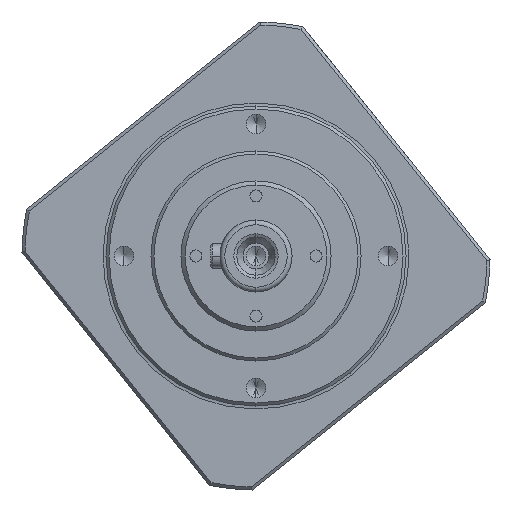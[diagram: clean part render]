
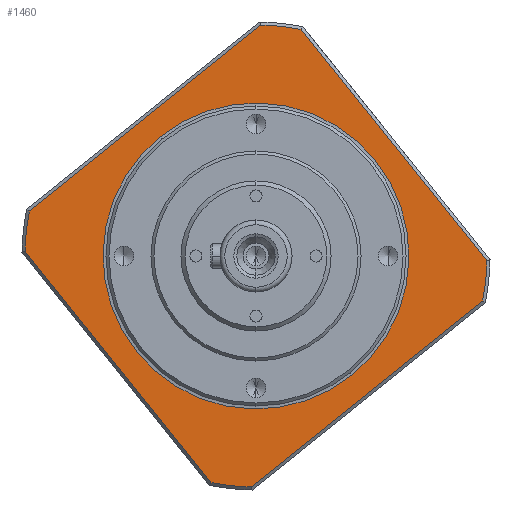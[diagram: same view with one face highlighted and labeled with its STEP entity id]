
A CAD part, left-side view. The second image highlights one B-rep face of the part: STEP entity #1460.
In plain terms, the highlighted planar face has unit normal (-1, 0, 0).
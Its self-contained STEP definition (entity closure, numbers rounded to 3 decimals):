
#156=PLANE('',#5770);
#889=LINE('',#8990,#1178);
#890=LINE('',#8995,#1179);
#891=LINE('',#8999,#1180);
#892=LINE('',#9003,#1181);
#1178=VECTOR('',#7156,1.);
#1179=VECTOR('',#7159,1.);
#1180=VECTOR('',#7162,1.);
#1181=VECTOR('',#7165,1.);
#1460=ADVANCED_FACE('',(#1773,#1774),#156,.T.);
#1773=FACE_BOUND('',#2071,.T.);
#1774=FACE_BOUND('',#2072,.T.);
#2071=EDGE_LOOP('',(#3100,#3101,#3102,#3103,#3104,#3105,#3106,#3107));
#2072=EDGE_LOOP('',(#3108,#3109));
#3100=ORIENTED_EDGE('',*,*,#4681,.T.);
#3101=ORIENTED_EDGE('',*,*,#4682,.T.);
#3102=ORIENTED_EDGE('',*,*,#4683,.T.);
#3103=ORIENTED_EDGE('',*,*,#4684,.T.);
#3104=ORIENTED_EDGE('',*,*,#4685,.T.);
#3105=ORIENTED_EDGE('',*,*,#4686,.T.);
#3106=ORIENTED_EDGE('',*,*,#4687,.T.);
#3107=ORIENTED_EDGE('',*,*,#4688,.T.);
#3108=ORIENTED_EDGE('',*,*,#4623,.T.);
#3109=ORIENTED_EDGE('',*,*,#4689,.T.);
#4017=VERTEX_POINT('',#8872);
#4018=VERTEX_POINT('',#8874);
#4059=VERTEX_POINT('',#8991);
#4060=VERTEX_POINT('',#8992);
#4061=VERTEX_POINT('',#8994);
#4062=VERTEX_POINT('',#8996);
#4063=VERTEX_POINT('',#8998);
#4064=VERTEX_POINT('',#9000);
#4065=VERTEX_POINT('',#9002);
#4066=VERTEX_POINT('',#9004);
#4623=EDGE_CURVE('',#4018,#4017,#5150,.T.);
#4681=EDGE_CURVE('',#4059,#4060,#889,.T.);
#4682=EDGE_CURVE('',#4060,#4061,#5178,.T.);
#4683=EDGE_CURVE('',#4061,#4062,#890,.T.);
#4684=EDGE_CURVE('',#4062,#4063,#5179,.T.);
#4685=EDGE_CURVE('',#4063,#4064,#891,.T.);
#4686=EDGE_CURVE('',#4064,#4065,#5180,.T.);
#4687=EDGE_CURVE('',#4065,#4066,#892,.T.);
#4688=EDGE_CURVE('',#4066,#4059,#5181,.T.);
#4689=EDGE_CURVE('',#4017,#4018,#5182,.T.);
#5150=CIRCLE('',#5719,25.5);
#5178=CIRCLE('',#5765,38.5);
#5179=CIRCLE('',#5766,38.5);
#5180=CIRCLE('',#5767,38.5);
#5181=CIRCLE('',#5768,38.5);
#5182=CIRCLE('',#5769,25.5);
#5719=AXIS2_PLACEMENT_3D('',#8873,#7034,#7035);
#5765=AXIS2_PLACEMENT_3D('',#8993,#7157,#7158);
#5766=AXIS2_PLACEMENT_3D('',#8997,#7160,#7161);
#5767=AXIS2_PLACEMENT_3D('',#9001,#7163,#7164);
#5768=AXIS2_PLACEMENT_3D('',#9005,#7166,#7167);
#5769=AXIS2_PLACEMENT_3D('',#9006,#7168,#7169);
#5770=AXIS2_PLACEMENT_3D('',#9007,#7170,#7171);
#7034=DIRECTION('',(1.,0.,0.));
#7035=DIRECTION('',(0.,-0.626,-0.78));
#7156=DIRECTION('',(0.,-0.626,-0.78));
#7157=DIRECTION('',(-1.,0.,0.));
#7158=DIRECTION('',(0.,-0.626,-0.78));
#7159=DIRECTION('',(0.,-0.78,0.626));
#7160=DIRECTION('',(-1.,0.,0.));
#7161=DIRECTION('',(0.,-0.626,-0.78));
#7162=DIRECTION('',(0.,0.626,0.78));
#7163=DIRECTION('',(-1.,0.,0.));
#7164=DIRECTION('',(0.,-0.626,-0.78));
#7165=DIRECTION('',(0.,0.78,-0.626));
#7166=DIRECTION('',(-1.,0.,0.));
#7167=DIRECTION('',(0.,-0.626,-0.78));
#7168=DIRECTION('',(1.,0.,0.));
#7169=DIRECTION('',(0.,-0.626,-0.78));
#7170=DIRECTION('',(-1.,0.,0.));
#7171=DIRECTION('',(0.,0.626,0.78));
#8872=CARTESIAN_POINT('',(43.903,20.812,52.878));
#8873=CARTESIAN_POINT('',(43.903,4.84,33.));
#8874=CARTESIAN_POINT('',(43.903,-11.132,13.122));
#8990=CARTESIAN_POINT('',(43.903,12.227,-4.904));
#8991=CARTESIAN_POINT('',(43.903,43.332,33.807));
#8992=CARTESIAN_POINT('',(43.903,12.341,-4.762));
#8993=CARTESIAN_POINT('',(43.903,4.84,33.));
#8994=CARTESIAN_POINT('',(43.903,5.647,-5.492));
#8995=CARTESIAN_POINT('',(43.903,-33.064,25.613));
#8996=CARTESIAN_POINT('',(43.903,-32.922,25.499));
#8997=CARTESIAN_POINT('',(43.903,4.84,33.));
#8998=CARTESIAN_POINT('',(43.903,-33.652,32.193));
#8999=CARTESIAN_POINT('',(43.903,-2.547,70.904));
#9000=CARTESIAN_POINT('',(43.903,-2.66,70.762));
#9001=CARTESIAN_POINT('',(43.903,4.84,33.));
#9002=CARTESIAN_POINT('',(43.903,4.033,71.492));
#9003=CARTESIAN_POINT('',(43.903,42.744,40.387));
#9004=CARTESIAN_POINT('',(43.903,42.602,40.501));
#9005=CARTESIAN_POINT('',(43.903,4.84,33.));
#9006=CARTESIAN_POINT('',(43.903,4.84,33.));
#9007=CARTESIAN_POINT('',(43.903,4.84,33.));
